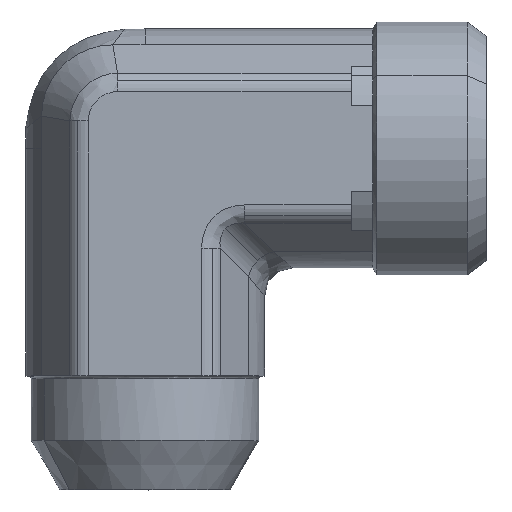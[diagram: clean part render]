
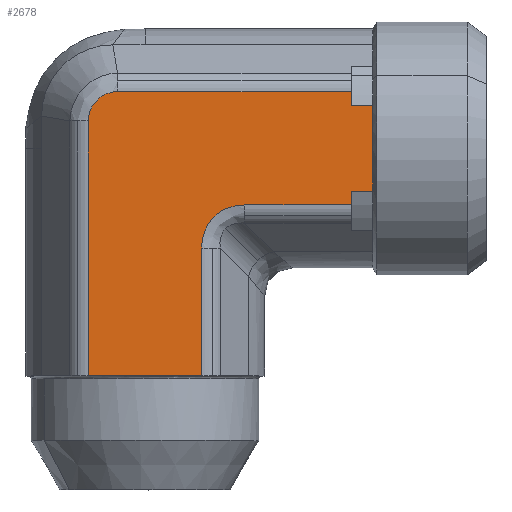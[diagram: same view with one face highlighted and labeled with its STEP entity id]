
A CAD part, top view. The second image highlights one B-rep face of the part: STEP entity #2678.
In plain terms, the highlighted planar face has unit normal (0, 0, 1) as drawn and (0, -1, 0) by its records, which use the part's own axes.
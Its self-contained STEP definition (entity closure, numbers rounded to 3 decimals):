
#361=CARTESIAN_POINT('',(2.515,-8.4,3.984));
#362=VERTEX_POINT('',#361);
#370=CARTESIAN_POINT('',(11.5,-8.4,3.984));
#371=VERTEX_POINT('',#370);
#372=CARTESIAN_POINT('',(2.515,-8.4,3.984));
#373=DIRECTION('',(1.0,0.0,0.0));
#374=VECTOR('',#373,8.985);
#375=LINE('',#372,#374);
#376=EDGE_CURVE('',#362,#371,#375,.T.);
#485=CARTESIAN_POINT('',(-8.484,-8.4,-1.926));
#486=VERTEX_POINT('',#485);
#494=CARTESIAN_POINT('',(-8.484,-8.4,14.5));
#495=VERTEX_POINT('',#494);
#496=CARTESIAN_POINT('',(-8.484,-8.4,-1.926));
#497=DIRECTION('',(0.0,0.0,1.0));
#498=VECTOR('',#497,16.426);
#499=LINE('',#496,#498);
#500=EDGE_CURVE('',#486,#495,#499,.T.);
#735=CARTESIAN_POINT('',(-4.5,-8.4,16.0));
#736=VERTEX_POINT('',#735);
#1709=CARTESIAN_POINT('',(11.5,-8.4,-3.984));
#1710=VERTEX_POINT('',#1709);
#1711=CARTESIAN_POINT('',(11.5,-8.4,-3.984));
#1712=DIRECTION('',(0.0,0.0,1.0));
#1713=VECTOR('',#1712,7.967);
#1714=LINE('',#1711,#1713);
#1715=EDGE_CURVE('',#1710,#371,#1714,.T.);
#2186=CARTESIAN_POINT('',(-0.516,-8.4,14.5));
#2187=VERTEX_POINT('',#2186);
#2188=CARTESIAN_POINT('',(-1.484,-8.4,14.5));
#2189=VERTEX_POINT('',#2188);
#2190=CARTESIAN_POINT('',(-0.516,-8.4,14.5));
#2191=DIRECTION('',(-1.0,0.0,0.0));
#2192=VECTOR('',#2191,0.968);
#2193=LINE('',#2190,#2192);
#2194=EDGE_CURVE('',#2187,#2189,#2193,.T.);
#2243=CARTESIAN_POINT('',(-7.516,-8.4,14.5));
#2244=VERTEX_POINT('',#2243);
#2245=CARTESIAN_POINT('',(-7.516,-8.4,14.5));
#2246=DIRECTION('',(-1.0,0.0,0.0));
#2247=VECTOR('',#2246,0.968);
#2248=LINE('',#2245,#2247);
#2249=EDGE_CURVE('',#2244,#495,#2248,.T.);
#2348=CARTESIAN_POINT('',(-1.484,-8.4,16.0));
#2349=VERTEX_POINT('',#2348);
#2350=CARTESIAN_POINT('',(-1.484,-8.4,14.5));
#2351=DIRECTION('',(0.0,0.0,1.0));
#2352=VECTOR('',#2351,1.5);
#2353=LINE('',#2350,#2352);
#2354=EDGE_CURVE('',#2189,#2349,#2353,.T.);
#2382=CARTESIAN_POINT('',(-7.516,-8.4,16.0));
#2383=VERTEX_POINT('',#2382);
#2384=CARTESIAN_POINT('',(-7.516,-8.4,16.0));
#2385=DIRECTION('',(0.0,0.0,-1.0));
#2386=VECTOR('',#2385,1.5);
#2387=LINE('',#2384,#2386);
#2388=EDGE_CURVE('',#2383,#2244,#2387,.T.);
#2598=CARTESIAN_POINT('',(-4.5,-8.4,16.0));
#2599=DIRECTION('',(-1.0,0.0,0.0));
#2600=VECTOR('',#2599,3.016);
#2601=LINE('',#2598,#2600);
#2602=EDGE_CURVE('',#736,#2383,#2601,.T.);
#2621=CARTESIAN_POINT('',(-4.5,-8.4,-3.175));
#2622=DIRECTION('',(0.0,-1.0,0.0));
#2623=DIRECTION('',(0.0,0.0,-1.0));
#2624=AXIS2_PLACEMENT_3D('',#2621,#2622,#2623);
#2625=PLANE('',#2624);
#2626=ORIENTED_EDGE('',*,*,#2388,.T.);
#2627=ORIENTED_EDGE('',*,*,#2249,.T.);
#2628=ORIENTED_EDGE('',*,*,#500,.F.);
#2629=CARTESIAN_POINT('',(-6.426,-8.4,-3.984));
#2630=VERTEX_POINT('',#2629);
#2631=CARTESIAN_POINT('',(-8.484,-8.4,-1.926));
#2632=CARTESIAN_POINT('',(-8.484,-8.4,-2.06));
#2633=CARTESIAN_POINT('',(-8.47,-8.4,-2.195));
#2634=CARTESIAN_POINT('',(-8.402,-8.4,-2.54));
#2635=CARTESIAN_POINT('',(-8.326,-8.4,-2.743));
#2636=CARTESIAN_POINT('',(-8.051,-8.4,-3.233));
#2637=CARTESIAN_POINT('',(-7.806,-8.4,-3.49));
#2638=CARTESIAN_POINT('',(-7.186,-8.4,-3.876));
#2639=CARTESIAN_POINT('',(-6.806,-8.4,-3.984));
#2640=CARTESIAN_POINT('',(-6.426,-8.4,-3.984));
#2641=B_SPLINE_CURVE_WITH_KNOTS('',3,(#2631,#2632,#2633,#2634,#2635,#2636,#2637,#2638,#2639,#2640),.UNSPECIFIED.,.F.,.U.,(4,2,2,2,4),(-3.216,-2.814,-2.171,-1.142,0.0),.UNSPECIFIED.);
#2642=EDGE_CURVE('',#2630,#486,#2641,.F.);
#2643=ORIENTED_EDGE('',*,*,#2642,.F.);
#2644=CARTESIAN_POINT('',(11.5,-8.4,-3.984));
#2645=DIRECTION('',(-1.0,0.0,0.0));
#2646=VECTOR('',#2645,17.926);
#2647=LINE('',#2644,#2646);
#2648=EDGE_CURVE('',#1710,#2630,#2647,.T.);
#2649=ORIENTED_EDGE('',*,*,#2648,.F.);
#2650=ORIENTED_EDGE('',*,*,#1715,.T.);
#2651=ORIENTED_EDGE('',*,*,#376,.F.);
#2652=CARTESIAN_POINT('',(-0.516,-8.4,7.015));
#2653=VERTEX_POINT('',#2652);
#2654=CARTESIAN_POINT('',(3.525,-8.4,8.025));
#2655=DIRECTION('',(0.,-1.,0.));
#2656=DIRECTION('',(-0.707,0.,-0.707));
#2657=AXIS2_PLACEMENT_3D('',#2654,#2655,#2656);
#2658=ELLIPSE('',#2657,4.518,3.5);
#2659=EDGE_CURVE('',#2653,#362,#2658,.T.);
#2660=ORIENTED_EDGE('',*,*,#2659,.F.);
#2661=CARTESIAN_POINT('',(-0.516,-8.4,14.5));
#2662=DIRECTION('',(0.0,0.0,-1.0));
#2663=VECTOR('',#2662,7.485);
#2664=LINE('',#2661,#2663);
#2665=EDGE_CURVE('',#2187,#2653,#2664,.T.);
#2666=ORIENTED_EDGE('',*,*,#2665,.F.);
#2667=ORIENTED_EDGE('',*,*,#2194,.T.);
#2668=ORIENTED_EDGE('',*,*,#2354,.T.);
#2669=CARTESIAN_POINT('',(-1.484,-8.4,16.0));
#2670=DIRECTION('',(-1.0,0.0,0.0));
#2671=VECTOR('',#2670,3.016);
#2672=LINE('',#2669,#2671);
#2673=EDGE_CURVE('',#2349,#736,#2672,.T.);
#2674=ORIENTED_EDGE('',*,*,#2673,.T.);
#2675=ORIENTED_EDGE('',*,*,#2602,.T.);
#2676=EDGE_LOOP('',(#2626,#2627,#2628,#2643,#2649,#2650,#2651,#2660,#2666,#2667,#2668,#2674,#2675));
#2677=FACE_OUTER_BOUND('',#2676,.T.);
#2678=ADVANCED_FACE('',(#2677),#2625,.T.);
